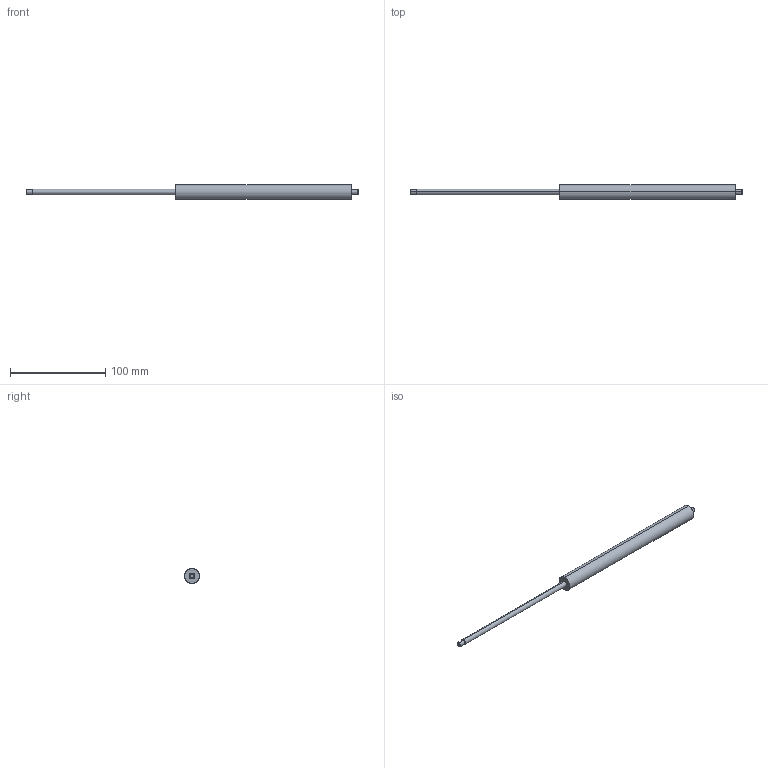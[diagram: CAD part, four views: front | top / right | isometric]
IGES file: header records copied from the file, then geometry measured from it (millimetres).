
Start section: SolidWorks IGES file using analytic representation for surfaces
Bounding box: 348 x 15.6 x 15.6 mm (x, y, z)
Surface area: 12439.5 mm2 (no closed solid volume)
Topology: 0 solids, 0 shells, 17 faces, 304 edges, 304 vertices
Faces by surface type: revolution 12, bspline 5
